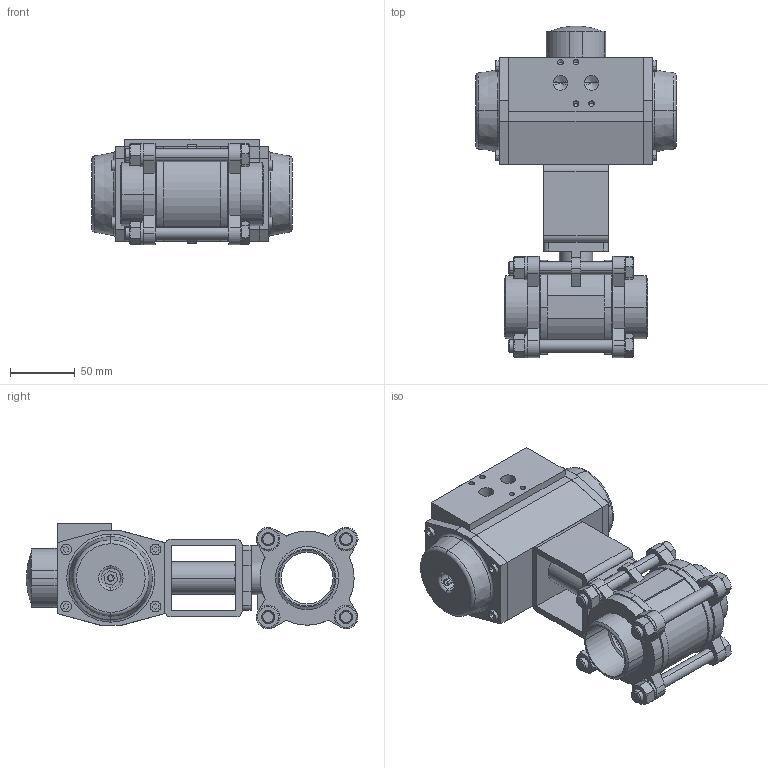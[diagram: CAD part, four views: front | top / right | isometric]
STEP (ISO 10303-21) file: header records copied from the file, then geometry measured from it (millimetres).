
FILE_DESCRIPTION (( 'STEP AP214' ), '1' );
FILE_NAME ('A13 DN40-1 1_2 BW + AP2D.STEP', '2012-04-23T09:22:06', ( '' ), ( '' ), 'SwSTEP 2.0', 'SolidWorks 2011', '' );
FILE_SCHEMA (( 'AUTOMOTIVE_DESIGN' ));
Length unit declared in the file: millimetre
Products named in the file (9): A13 DN40 Buttweld; Hexagon Nut ISO 4032 - M10 - D - N_Hexagon Nut ISO 4032 - M10 - D - N; Brugstuk simplified_YB6060F5F5-3; Spring washer DIN 128 - A10_Spring washer DIN 128 - A10; ISO 4014 - M10 x 90 x 26-N_ISO 4014 - M10 x 90 x 26-N; A13 Flens Buttweld DN40; A13 KK DN40 PN63; A13 DN40-1 1_2 BW + AP2D; AP2_Default<As Machined>
Assembly tree (18 placements, depth 3):
  A13 DN40-1 1_2 BW + AP2D
    AP2_Default<As Machined>
    A13 DN40 Buttweld
      Spring washer DIN 128 - A10_Spring washer DIN 128 - A10  x4
      A13 Flens Buttweld DN40  x2
      Hexagon Nut ISO 4032 - M10 - D - N_Hexagon Nut ISO 4032 - M10 - D - N  x4
      A13 KK DN40 PN63
      ISO 4014 - M10 x 90 x 26-N_ISO 4014 - M10 x 90 x 26-N  x4
    Brugstuk simplified_YB6060F5F5-3
Bounding box: 155 x 256.28 x 81.79 mm (x, y, z)
Volume: 1225439.5 mm3; surface area: 191309.9 mm2
Topology: 24 solids, 24 shells, 720 faces, 1684 edges, 1041 vertices
Faces by surface type: plane 346, cylinder 200, cone 144, torus 28, sphere 2
Entity records: 15586 total; most frequent: CARTESIAN_POINT 2678, DIRECTION 2465, ORIENTED_EDGE 2262, EDGE_CURVE 1131, AXIS2_PLACEMENT_3D 872, VERTEX_POINT 729, VECTOR 721, LINE 721
